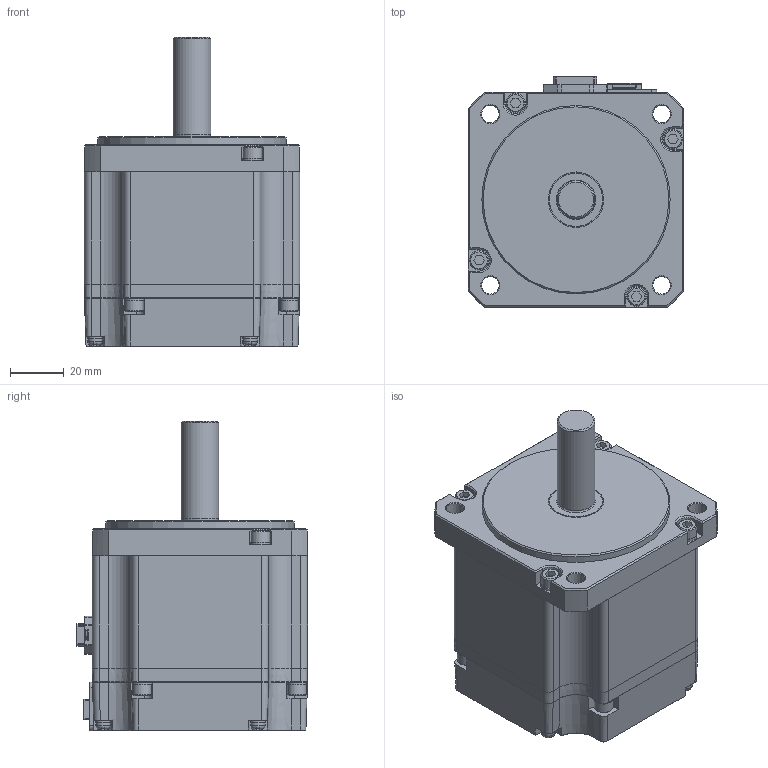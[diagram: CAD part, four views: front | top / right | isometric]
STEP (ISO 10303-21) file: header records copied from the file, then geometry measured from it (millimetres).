
FILE_DESCRIPTION (( 'STEP AP214' ), '1' );
FILE_NAME ('EM08GA003G01_Out Line(APM-EC04AM3N).STEP', '2022-11-10T03:15:30', ( '' ), ( '' ), 'SwSTEP 2.0', 'SolidWorks 2021', '' );
FILE_SCHEMA (( 'AUTOMOTIVE_DESIGN' ));
Length unit declared in the file: millimetre
Products named in the file (1): EM08GA003G01_Out Line(APM-EC04AM3N)
Bounding box: 80 x 85.9 x 115.2 mm (x, y, z)
Volume: 441628.2 mm3; surface area: 83315.1 mm2
Topology: 33 solids, 33 shells, 1427 faces, 3541 edges, 2250 vertices
Faces by surface type: plane 1031, cylinder 206, cone 124, torus 31, bspline 21, sphere 14
Full cylindrical faces by diameter (mm): 1.589 x1, 1.6 x9, 2 x2, 2.1 x2, 2.5 x4, 3 x8, 3.3 x8, 4 x12, 4.5 x8, 5.4 x8, 7 x8, 7.2 x8, 14 x1, 19.8 x1, 20.6 x1, 70 x1
Entity records: 57834 total; most frequent: CARTESIAN_POINT 8799, ORIENTED_EDGE 6716, DIRECTION 6499, EDGE_CURVE 3358, LINE 2495, VECTOR 2495, VERTEX_POINT 2211, AXIS2_PLACEMENT_3D 2002
